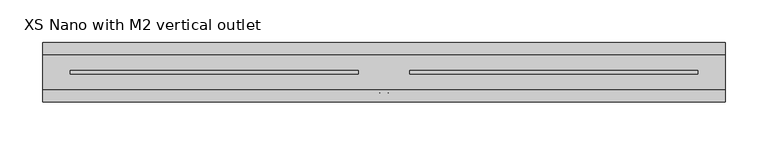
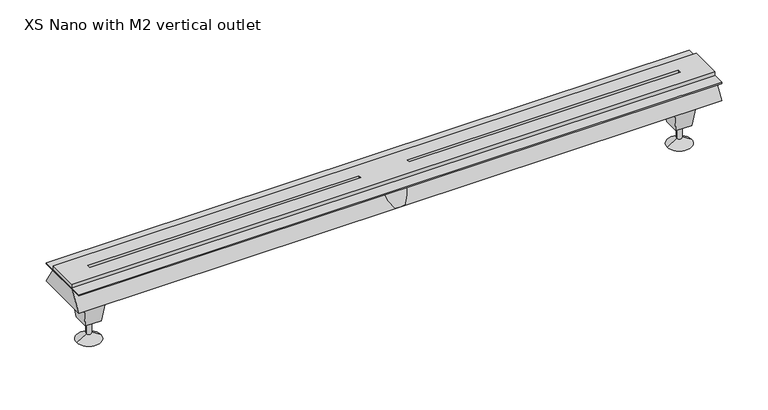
"""IFC4 building model written with IfcOpenShell, lengths in millimetres: sanitary terminal geometry, NLRS_PF_52_UN_XS Nano_Easydrain : XS Nano with M2 vertical outlet."""

from ifc_helpers import new_model, si_unit, frame, origin, place, context, project, spatial, polyline, circle_curve, outline, extrude, faceted_brep, source, transform, mapped, element, save
from ifc_brep_helpers import plane_surface, cylinder_surface, revolved_surface, advanced_brep


def xs_nano_with_m2_vertical_outlet_db10e45d(model_context):
    return source(origin(), model_context, "Body", "SolidModel", [
        advanced_brep(
        [(370.5, 0.0, -69.0), (364.5, 0.0, -69.0), (367.5, 0.0, -69.0), (370.5, 0.0, -87.5), (364.5, 0.0, -87.5), (382.5, 0.0, -95.0), (352.5, 0.0, -95.0), (367.5, 0.0, -95.0)],
        [
            (0, 1, circle_curve(frame((367.5, 0.0, -69.0), z_axis=(0.0, 0.0, 1.0), x_axis=(-1.0, 0.0, 0.0)), 3.0)),
            (1, 2),
            (2, 0),
            (1, 0, circle_curve(frame((367.5, 0.0, -69.0), z_axis=(0.0, 0.0, 1.0), x_axis=(-1.0, 0.0, 0.0)), 3.0)),
            (3, 4, circle_curve(frame((367.5, 0.0, -87.5), z_axis=(0.0, 0.0, 1.0), x_axis=(-1.0, 0.0, 0.0)), 3.0)),
            (4, 1),
            (0, 3),
            (4, 3, circle_curve(frame((367.5, 0.0, -87.5), z_axis=(0.0, 0.0, 1.0), x_axis=(-1.0, 0.0, 0.0)), 3.0)),
            (5, 6, circle_curve(frame((367.5, 0.0, -95.0), z_axis=(0.0, 0.0, 1.0), x_axis=(-1.0, 0.0, 0.0)), 15.0)),
            (6, 4),
            (3, 5),
            (6, 5, circle_curve(frame((367.5, 0.0, -95.0), z_axis=(0.0, 0.0, 1.0), x_axis=(-1.0, 0.0, 0.0)), 15.0)),
            (7, 6),
            (5, 7),
        ],
        [
            plane_surface(frame((367.5, 0.0, -69.0), z_axis=(0.0, 0.0, 1.0), x_axis=(-1.0, 0.0, 0.0))),
            cylinder_surface(frame((367.5, 0.0, -103.1782032), z_axis=(0.0, 0.0, -1.0), x_axis=(-1.0, 0.0, 0.0)), 3.0),
            revolved_surface(polyline([(364.5, 0.0, -87.5), (352.5, 0.0, -95.0)]), (367.5, 0.0, -103.1782032), (0.0, 0.0, -1.0)),
            plane_surface(frame((367.5, 0.0, -95.0), z_axis=(0.0, 0.0, -1.0), x_axis=(-1.0, 0.0, 0.0))),
        ],
        [
            (0, [[1, 2, 3]]),
            (0, [[4, -3, -2]]),
            (1, [[5, 6, -1, 7]]),
            (1, [[8, -7, -4, -6]]),
            (2, [[9, 10, -5, 11]]),
            (2, [[12, -11, -8, -10]]),
            (3, [[13, -9, 14]]),
            (3, [[-14, -12, -13]]),
        ],
    ),
        faceted_brep([(357.5, 10.0, -69.0), (377.5, 10.0, -69.0), (377.5, -10.0, -69.0), (357.5, -10.0, -69.0), (352.5, 15.0, -29.0), (352.5, -15.0, -29.0), (382.5, -15.0, -29.0), (382.5, 15.0, -29.0)], [[[0, 1, 2, 3]], [[4, 5, 6, 7]], [[5, 4, 0, 3]], [[6, 5, 3, 2]], [[7, 6, 2, 1]], [[4, 7, 1, 0]]]),
        advanced_brep(
        [(-364.5, 0.0, -69.0), (-370.5, 0.0, -69.0), (-367.5, 0.0, -69.0), (-364.5, 0.0, -87.5), (-370.5, 0.0, -87.5), (-352.5, 0.0, -95.0), (-382.5, 0.0, -95.0), (-367.5, 0.0, -95.0)],
        [
            (0, 1, circle_curve(frame((-367.5, 0.0, -69.0), z_axis=(0.0, 0.0, 1.0), x_axis=(-1.0, 0.0, 0.0)), 3.0)),
            (1, 2),
            (2, 0),
            (1, 0, circle_curve(frame((-367.5, 0.0, -69.0), z_axis=(0.0, 0.0, 1.0), x_axis=(-1.0, 0.0, 0.0)), 3.0)),
            (3, 4, circle_curve(frame((-367.5, 0.0, -87.5), z_axis=(0.0, 0.0, 1.0), x_axis=(-1.0, 0.0, 0.0)), 3.0)),
            (4, 1),
            (0, 3),
            (4, 3, circle_curve(frame((-367.5, 0.0, -87.5), z_axis=(0.0, 0.0, 1.0), x_axis=(-1.0, 0.0, 0.0)), 3.0)),
            (5, 6, circle_curve(frame((-367.5, 0.0, -95.0), z_axis=(0.0, 0.0, 1.0), x_axis=(-1.0, 0.0, 0.0)), 15.0)),
            (6, 4),
            (3, 5),
            (6, 5, circle_curve(frame((-367.5, 0.0, -95.0), z_axis=(0.0, 0.0, 1.0), x_axis=(-1.0, 0.0, 0.0)), 15.0)),
            (7, 6),
            (5, 7),
        ],
        [
            plane_surface(frame((-367.5, 0.0, -69.0), z_axis=(0.0, 0.0, 1.0), x_axis=(-1.0, 0.0, 0.0))),
            cylinder_surface(frame((-367.5, 0.0, -103.1782032), z_axis=(0.0, 0.0, -1.0), x_axis=(-1.0, 0.0, 0.0)), 3.0),
            revolved_surface(polyline([(-370.5, 0.0, -87.5), (-382.5, 0.0, -95.0)]), (-367.5, 0.0, -103.1782032), (0.0, 0.0, -1.0)),
            plane_surface(frame((-367.5, 0.0, -95.0), z_axis=(0.0, 0.0, -1.0), x_axis=(-1.0, 0.0, 0.0))),
        ],
        [
            (0, [[1, 2, 3]]),
            (0, [[4, -3, -2]]),
            (1, [[5, 6, -1, 7]]),
            (1, [[8, -7, -4, -6]]),
            (2, [[9, 10, -5, 11]]),
            (2, [[12, -11, -8, -10]]),
            (3, [[13, -9, 14]]),
            (3, [[-14, -12, -13]]),
        ],
    ),
        faceted_brep([(-377.5, 10.0, -69.0), (-357.5, 10.0, -69.0), (-357.5, -10.0, -69.0), (-377.5, -10.0, -69.0), (-382.5, 15.0, -29.0), (-382.5, -15.0, -29.0), (-352.5, -15.0, -29.0), (-352.5, 15.0, -29.0)], [[[0, 1, 2, 3]], [[4, 5, 6, 7]], [[5, 4, 0, 3]], [[6, 5, 3, 2]], [[7, 6, 2, 1]], [[4, 7, 1, 0]]]),
        extrude(outline(polyline([(400.0, 20.0), (400.0, -20.0), (-400.0, -20.0), (-400.0, 20.0), (400.0, 20.0)]), holes=[polyline([(-30.0, 2.0), (-367.5, 2.0), (-367.5, -2.0), (-30.0, -2.0), (-30.0, 2.0)]), polyline([(30.0, 2.0), (30.0, -2.0), (367.5, -2.0), (367.5, 2.0), (30.0, 2.0)])]), frame((0.0, 0.0, -5.0), z_axis=(0.0, 0.0, 1.0), x_axis=(1.0, 0.0, 0.0)), (0.0, 0.0, 1.0), 5.0),
        extrude(outline(polyline([(400.0, 35.0), (400.0, -35.0), (-400.0, -35.0), (-400.0, 35.0), (400.0, 35.0)])), frame((0.0, 0.0, -6.4659054), z_axis=(0.0, 0.0, 1.0), x_axis=(1.0, 0.0, 0.0)), (0.0, 0.0, 1.0), 1.4659054),
        advanced_brep(
        [(-35.0, 0.0, -29.0), (35.0, 0.0, -29.0), (-25.0, 0.0, -5.0), (25.0, 0.0, -5.0)],
        [
            (0, 1, circle_curve(frame((0.0, 0.0, -29.0), z_axis=(0.0, 0.0, -1.0), x_axis=(-1.0, 0.0, 0.0)), 35.0)),
            (1, 0, circle_curve(frame((0.0, 0.0, -29.0), z_axis=(0.0, 0.0, -1.0), x_axis=(1.0, 0.0, 0.0)), 35.0)),
            (2, 3, circle_curve(frame((0.0, 0.0, -5.0), z_axis=(0.0, 0.0, 1.0), x_axis=(1.0, 0.0, 0.0)), 25.0)),
            (3, 2, circle_curve(frame((0.0, 0.0, -5.0), z_axis=(0.0, 0.0, 1.0), x_axis=(-1.0, 0.0, 0.0)), 25.0)),
            (2, 0),
            (1, 3),
        ],
        [
            plane_surface(frame((0.0, 0.0, -29.0), z_axis=(0.0, 0.0, -1.0), x_axis=(0.0, -1.0, 0.0))),
            plane_surface(frame((0.0, 0.0, -5.0), z_axis=(0.0, 0.0, 1.0), x_axis=(0.0, -1.0, 0.0))),
            revolved_surface(polyline([(-25.0, 0.0, -5.0), (-35.0, 0.0, -29.0)]), (0.0, 0.0, 55.0), (0.0, 0.0, -1.0)),
            revolved_surface(polyline([(25.0, 0.0, -5.0), (35.0, 0.0, -29.0)]), (0.0, 0.0, 55.0), (0.0, 0.0, -1.0)),
        ],
        [
            (0, [[1, 2]]),
            (1, [[3, 4]]),
            (2, [[-3, 5, -2, 6]]),
            (3, [[-4, -6, -1, -5]]),
        ],
    ),
        extrude(outline(polyline([(-20.0, -5.0), (20.0, -5.0), (35.0, -29.0), (-35.0, -29.0), (-20.0, -5.0)])), frame((-400.0, 0.0, 0.0), z_axis=(1.0, 0.0, 0.0), x_axis=(0.0, 1.0, 0.0)), (0.0, 0.0, 1.0), 800.0),
    ])


if __name__ == "__main__":
    model = new_model("IFC4")
    model_context = context("Model", 3, world=origin())
    ifc_project = project(units=[si_unit("LENGTHUNIT", "METRE", prefix="MILLI")], contexts=[model_context])
    site = spatial("IfcSite", under=ifc_project)
    building = spatial("IfcBuilding", under=site)
    placement = place(None, origin())
    xs_nano_with_m2_vertical_outlet_shape = xs_nano_with_m2_vertical_outlet_db10e45d(model_context)
    element("IfcSanitaryTerminal", 1, ObjectType="NLRS_PF_52_UN_XS Nano_Easydrain : XS Nano with M2 vertical outlet", at=placement, inside=building, context=model_context, shape_type="MappedRepresentation", body=[
        mapped(xs_nano_with_m2_vertical_outlet_shape, transform((0.0, 0.0, 0.0), x_axis=(1.0, 0.0, 0.0), y_axis=(0.0, 1.0, 0.0), z_axis=(0.0, 0.0, 1.0))),
    ])
    save(model, "model.ifc")
